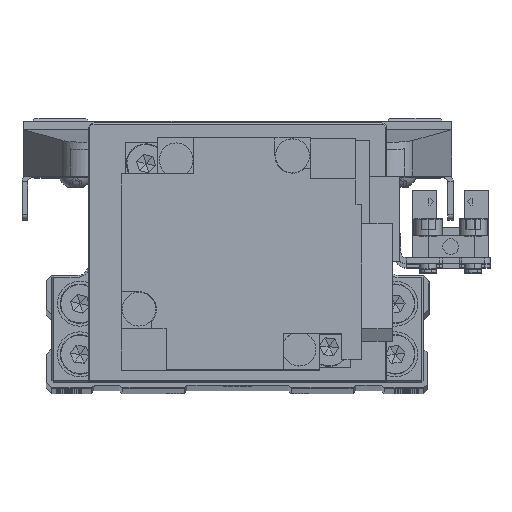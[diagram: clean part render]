
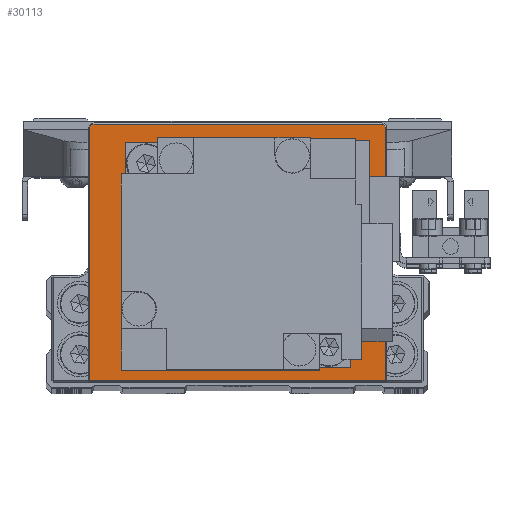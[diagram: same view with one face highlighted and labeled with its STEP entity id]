
A CAD part, top view. The second image highlights one B-rep face of the part: STEP entity #30113.
In plain terms, the highlighted planar face has unit normal (0, 0, 1) as drawn and (0, -1, 0) by its records, which use the part's own axes.
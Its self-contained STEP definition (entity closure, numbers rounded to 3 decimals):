
#1083 = VECTOR ( 'NONE', #15120, 1000. ) ;
#3033 = DIRECTION ( 'NONE',  ( 0., -1., 0. ) ) ;
#3110 = CARTESIAN_POINT ( 'NONE',  ( 26.5, -4., -22.8 ) ) ;
#3613 = ORIENTED_EDGE ( 'NONE', *, *, #34954, .T. ) ;
#4746 = LINE ( 'NONE', #16758, #10121 ) ;
#5183 = VERTEX_POINT ( 'NONE', #28818 ) ;
#6829 = LINE ( 'NONE', #18862, #27010 ) ;
#7337 = DIRECTION ( 'NONE',  ( 0., 0., -1. ) ) ;
#7997 = CARTESIAN_POINT ( 'NONE',  ( 26.3, -4., -22.8 ) ) ;
#9308 = EDGE_CURVE ( 'NONE', #15119, #13681, #13286, .T. ) ;
#10121 = VECTOR ( 'NONE', #28791, 1000. ) ;
#10281 = VERTEX_POINT ( 'NONE', #14456 ) ;
#10401 = CARTESIAN_POINT ( 'NONE',  ( 0., -4., 0. ) ) ;
#10509 = DIRECTION ( 'NONE',  ( 0., 0., -1. ) ) ;
#11634 = CARTESIAN_POINT ( 'NONE',  ( 26.3, -4., 22. ) ) ;
#12618 = ORIENTED_EDGE ( 'NONE', *, *, #9308, .T. ) ;
#13286 = CIRCLE ( 'NONE', #18327, 0.8 ) ;
#13681 = VERTEX_POINT ( 'NONE', #33125 ) ;
#14456 = CARTESIAN_POINT ( 'NONE',  ( -26.3, -4., -22.8 ) ) ;
#14866 = ORIENTED_EDGE ( 'NONE', *, *, #29418, .T. ) ;
#15033 = DIRECTION ( 'NONE',  ( 0., 0., -1. ) ) ;
#15119 = VERTEX_POINT ( 'NONE', #11634 ) ;
#15120 = DIRECTION ( 'NONE',  ( 1., 0., 0. ) ) ;
#15599 = EDGE_CURVE ( 'NONE', #36083, #15119, #6829, .T. ) ;
#16758 = CARTESIAN_POINT ( 'NONE',  ( -25.5, -4., 22.8 ) ) ;
#17171 = VECTOR ( 'NONE', #10509, 1000. ) ;
#17373 = AXIS2_PLACEMENT_3D ( 'NONE', #30061, #3033, #15033 ) ;
#17964 = ORIENTED_EDGE ( 'NONE', *, *, #15599, .T. ) ;
#18327 = AXIS2_PLACEMENT_3D ( 'NONE', #22333, #34365, #7337 ) ;
#18862 = CARTESIAN_POINT ( 'NONE',  ( 26.3, -4., 22. ) ) ;
#20234 = EDGE_CURVE ( 'NONE', #13681, #35517, #4746, .T. ) ;
#21511 = CARTESIAN_POINT ( 'NONE',  ( -25.5, -4., 22.8 ) ) ;
#21903 = AXIS2_PLACEMENT_3D ( 'NONE', #10401, #22419, #34462 ) ;
#22333 = CARTESIAN_POINT ( 'NONE',  ( 25.5, -4., 22. ) ) ;
#22419 = DIRECTION ( 'NONE',  ( 0., -1., 0. ) ) ;
#25382 = FACE_OUTER_BOUND ( 'NONE', #34337, .T. ) ;
#25499 = LINE ( 'NONE', #37525, #17171 ) ;
#25516 = ORIENTED_EDGE ( 'NONE', *, *, #20234, .T. ) ;
#25713 = EDGE_CURVE ( 'NONE', #5183, #10281, #25499, .T. ) ;
#27010 = VECTOR ( 'NONE', #30903, 1000. ) ;
#28791 = DIRECTION ( 'NONE',  ( -1., 0., 0. ) ) ;
#28818 = CARTESIAN_POINT ( 'NONE',  ( -26.3, -4., 22. ) ) ;
#29418 = EDGE_CURVE ( 'NONE', #10281, #36083, #30134, .T. ) ;
#30061 = CARTESIAN_POINT ( 'NONE',  ( -25.5, -4., 22. ) ) ;
#30113 = ADVANCED_FACE ( 'NONE', ( #25382 ), #37418, .T. ) ;
#30134 = LINE ( 'NONE', #3110, #1083 ) ;
#30903 = DIRECTION ( 'NONE',  ( 0., 0., 1. ) ) ;
#31559 = ORIENTED_EDGE ( 'NONE', *, *, #25713, .T. ) ;
#33125 = CARTESIAN_POINT ( 'NONE',  ( 25.5, -4., 22.8 ) ) ;
#34337 = EDGE_LOOP ( 'NONE', ( #14866, #17964, #12618, #25516, #3613, #31559 ) ) ;
#34365 = DIRECTION ( 'NONE',  ( 0., -1., 0. ) ) ;
#34382 = CIRCLE ( 'NONE', #17373, 0.8 ) ;
#34462 = DIRECTION ( 'NONE',  ( 0., 0., -1. ) ) ;
#34954 = EDGE_CURVE ( 'NONE', #35517, #5183, #34382, .T. ) ;
#35517 = VERTEX_POINT ( 'NONE', #21511 ) ;
#36083 = VERTEX_POINT ( 'NONE', #7997 ) ;
#37418 = PLANE ( 'NONE',  #21903 ) ;
#37525 = CARTESIAN_POINT ( 'NONE',  ( -26.3, -4., -23. ) ) ;
